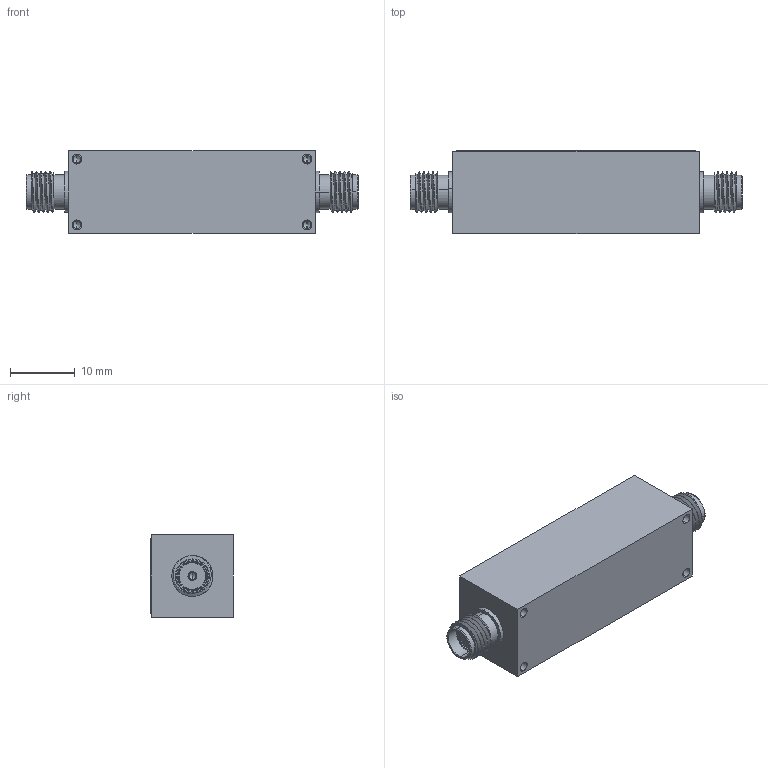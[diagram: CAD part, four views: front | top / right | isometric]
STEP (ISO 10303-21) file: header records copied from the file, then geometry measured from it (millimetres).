
FILE_DESCRIPTION (( 'STEP AP214' ), '1' );
FILE_NAME ('JTIDS-0001.STEP', '2025-10-27T14:18:27', ( '' ), ( '' ), 'SwSTEP 2.0', 'SolidWorks 2024', '' );
FILE_SCHEMA (( 'AUTOMOTIVE_DESIGN' ));
Length unit declared in the file: inch
Products named in the file (1): JTIDS-0001
Bounding box: 51.31 x 12.83 x 12.7 mm (x, y, z)
Volume: 6555.5 mm3; surface area: 4044 mm2
Topology: 4 solids, 6 shells, 1197 faces, 4283 edges, 3241 vertices
Faces by surface type: cylinder 576, torus 420, plane 177, cone 20, bspline 4
Entity records: 82205 total; most frequent: CARTESIAN_POINT 30445, ORIENTED_EDGE 8526, DIRECTION 6708, EDGE_CURVE 4263, VERTEX_POINT 3241, AXIS2_PLACEMENT_3D 2656, CIRCLE 1462, VECTOR 1396
